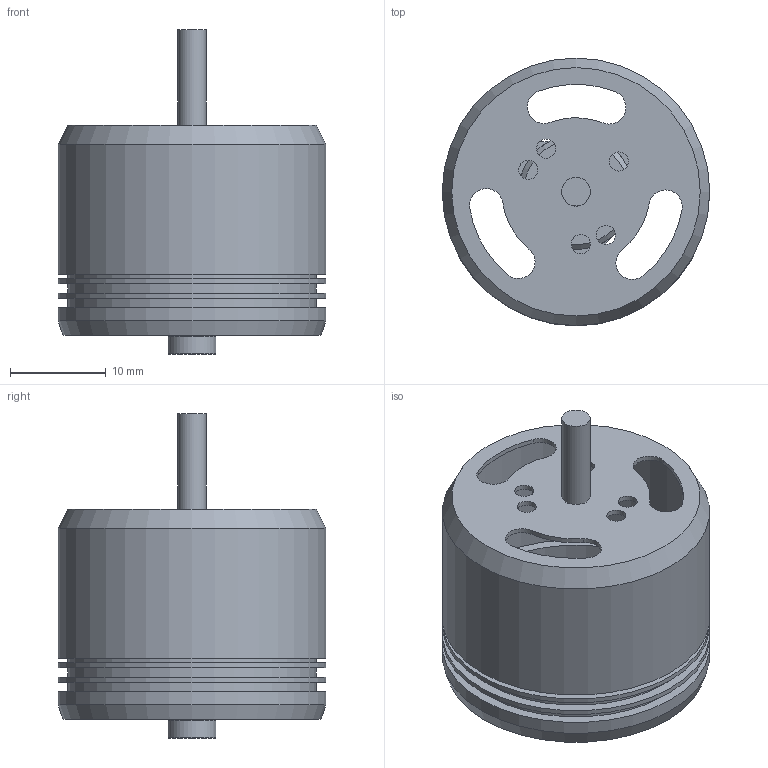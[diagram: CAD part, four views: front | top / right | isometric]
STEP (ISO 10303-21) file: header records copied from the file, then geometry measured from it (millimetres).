
FILE_DESCRIPTION(/* description */ (''),/* implementation_level */ '2;1');
FILE_NAME(/* name */ 'C:/Users/Szasd/Pictures/Saved Pictures/电机-大疆精灵 v3.step',/* time_stamp */ '2022-03-13T22:02:57+08:00',/* author */ (''),/* organization */ (''),/* preprocessor_version */ 'ST-DEVELOPER v18.1',/* originating_system */ 'Autodesk Translation Framework v10.13.0.1454',/* authorisation */ '');
FILE_SCHEMA (('AUTOMOTIVE_DESIGN { 1 0 10303 214 3 1 1 }'));
Length unit declared in the file: millimetre
Products named in the file (2): 电机-大疆精灵; 磁铁
Assembly tree (1 placements, depth 2):
  电机-大疆精灵
    磁铁
Bounding box: 28 x 28 x 34 mm (x, y, z)
Volume: 1892.9 mm3; surface area: 6278 mm2
Topology: 3 solids, 3 shells, 85 faces, 196 edges, 129 vertices
Faces by surface type: cylinder 50, plane 27, cone 6, torus 2
Full cylindrical faces by diameter (mm): 2 x5, 3 x1, 3.5 x3, 4 x1, 5 x1, 8 x1, 12 x1, 25 x1, 26 x3, 27 x2, 28 x4
Entity records: 2566 total; most frequent: DIRECTION 491, CARTESIAN_POINT 413, ORIENTED_EDGE 392, AXIS2_PLACEMENT_3D 207, EDGE_CURVE 196, VERTEX_POINT 129, EDGE_LOOP 119, CIRCLE 119
